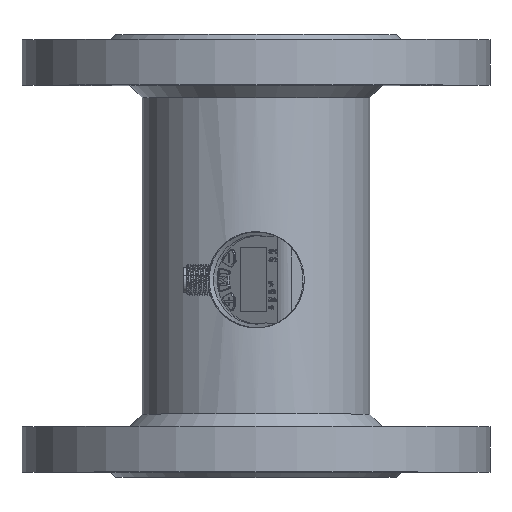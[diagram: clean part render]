
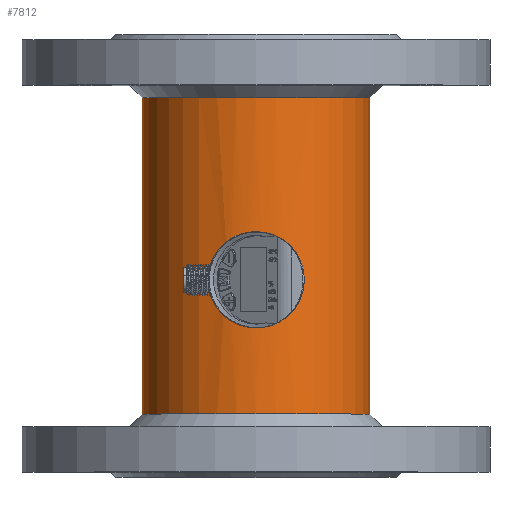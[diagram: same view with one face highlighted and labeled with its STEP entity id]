
A CAD part, top view. The second image highlights one B-rep face of the part: STEP entity #7812.
In plain terms, the highlighted cylindrical face has radius 45 mm (diameter 90 mm), a full revolution.
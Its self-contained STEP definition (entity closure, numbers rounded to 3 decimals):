
#6050=CYLINDRICAL_SURFACE('',#22954,45.);
#6821=B_SPLINE_CURVE_WITH_KNOTS('',3,(#43292,#43293,#43294,#43295,#43296,
#43297,#43298,#43299,#43300,#43301),.UNSPECIFIED.,.F.,.F.,(4,2,2,2,4),(0.,
0.25,0.5,0.75,1.),.UNSPECIFIED.);
#6822=B_SPLINE_CURVE_WITH_KNOTS('',3,(#43302,#43303,#43304,#43305,#43306,
#43307,#43308,#43309,#43310,#43311),.UNSPECIFIED.,.F.,.F.,(4,2,2,2,4),(0.,
0.25,0.5,0.75,1.),.UNSPECIFIED.);
#7812=ADVANCED_FACE('',(#8677,#8678,#8679),#6050,.T.);
#8677=FACE_BOUND('',#9954,.T.);
#8678=FACE_BOUND('',#9955,.T.);
#8679=FACE_BOUND('',#9956,.T.);
#9954=EDGE_LOOP('',(#15263));
#9955=EDGE_LOOP('',(#15264));
#9956=EDGE_LOOP('',(#15265,#15266,#15267,#15268));
#10631=CIRCLE('',#22952,45.);
#10632=CIRCLE('',#22953,45.);
#15263=ORIENTED_EDGE('',*,*,#19296,.T.);
#15264=ORIENTED_EDGE('',*,*,#19297,.T.);
#15265=ORIENTED_EDGE('',*,*,#19298,.T.);
#15266=ORIENTED_EDGE('',*,*,#19288,.F.);
#15267=ORIENTED_EDGE('',*,*,#19299,.T.);
#15268=ORIENTED_EDGE('',*,*,#19292,.F.);
#16941=VERTEX_POINT('',#43261);
#16942=VERTEX_POINT('',#43263);
#16945=VERTEX_POINT('',#43275);
#16946=VERTEX_POINT('',#43277);
#16949=VERTEX_POINT('',#43289);
#16950=VERTEX_POINT('',#43291);
#19288=EDGE_CURVE('',#16941,#16942,#20321,.T.);
#19292=EDGE_CURVE('',#16945,#16946,#20322,.T.);
#19296=EDGE_CURVE('',#16949,#16949,#10631,.T.);
#19297=EDGE_CURVE('',#16950,#16950,#10632,.T.);
#19298=EDGE_CURVE('',#16945,#16942,#6821,.T.);
#19299=EDGE_CURVE('',#16941,#16946,#6822,.T.);
#20321=LINE('',#43262,#21483);
#20322=LINE('',#43276,#21484);
#21483=VECTOR('',#27061,1.);
#21484=VECTOR('',#27064,1.);
#22952=AXIS2_PLACEMENT_3D('',#43288,#27073,#27074);
#22953=AXIS2_PLACEMENT_3D('',#43290,#27075,#27076);
#22954=AXIS2_PLACEMENT_3D('',#43312,#27077,#27078);
#27061=DIRECTION('',(0.,1.,0.));
#27064=DIRECTION('',(0.,-1.,0.));
#27073=DIRECTION('',(0.,1.,0.));
#27074=DIRECTION('',(0.,0.,1.));
#27075=DIRECTION('',(0.,-1.,0.));
#27076=DIRECTION('',(0.,0.,-1.));
#27077=DIRECTION('',(0.,1.,0.));
#27078=DIRECTION('',(0.,0.,-1.));
#43261=CARTESIAN_POINT('',(37.022,27.131,-94.224));
#43262=CARTESIAN_POINT('',(37.022,36.4,-94.224));
#43263=CARTESIAN_POINT('',(37.022,45.669,-94.224));
#43275=CARTESIAN_POINT('',(13.978,45.67,-94.224));
#43276=CARTESIAN_POINT('',(13.978,36.401,-94.224));
#43277=CARTESIAN_POINT('',(13.978,27.132,-94.224));
#43288=CARTESIAN_POINT('',(25.5,-16.342,-137.724));
#43289=CARTESIAN_POINT('',(25.5,-16.342,-92.724));
#43290=CARTESIAN_POINT('',(25.5,108.658,-137.724));
#43291=CARTESIAN_POINT('',(25.5,108.658,-182.724));
#43292=CARTESIAN_POINT('',(13.978,45.67,-94.224));
#43293=CARTESIAN_POINT('',(15.353,47.405,-93.86));
#43294=CARTESIAN_POINT('',(17.096,48.804,-93.471));
#43295=CARTESIAN_POINT('',(21.045,50.73,-92.901));
#43296=CARTESIAN_POINT('',(23.268,51.249,-92.725));
#43297=CARTESIAN_POINT('',(27.697,51.256,-92.723));
#43298=CARTESIAN_POINT('',(29.919,50.746,-92.896));
#43299=CARTESIAN_POINT('',(33.911,48.802,-93.471));
#43300=CARTESIAN_POINT('',(35.647,47.405,-93.86));
#43301=CARTESIAN_POINT('',(37.022,45.669,-94.224));
#43302=CARTESIAN_POINT('',(37.022,27.131,-94.224));
#43303=CARTESIAN_POINT('',(35.647,25.395,-93.86));
#43304=CARTESIAN_POINT('',(33.903,23.996,-93.471));
#43305=CARTESIAN_POINT('',(29.954,22.069,-92.901));
#43306=CARTESIAN_POINT('',(27.731,21.549,-92.725));
#43307=CARTESIAN_POINT('',(23.301,21.546,-92.724));
#43308=CARTESIAN_POINT('',(21.079,22.056,-92.897));
#43309=CARTESIAN_POINT('',(17.087,23.997,-93.472));
#43310=CARTESIAN_POINT('',(15.352,25.395,-93.86));
#43311=CARTESIAN_POINT('',(13.978,27.132,-94.224));
#43312=CARTESIAN_POINT('',(25.5,952.558,-137.724));
